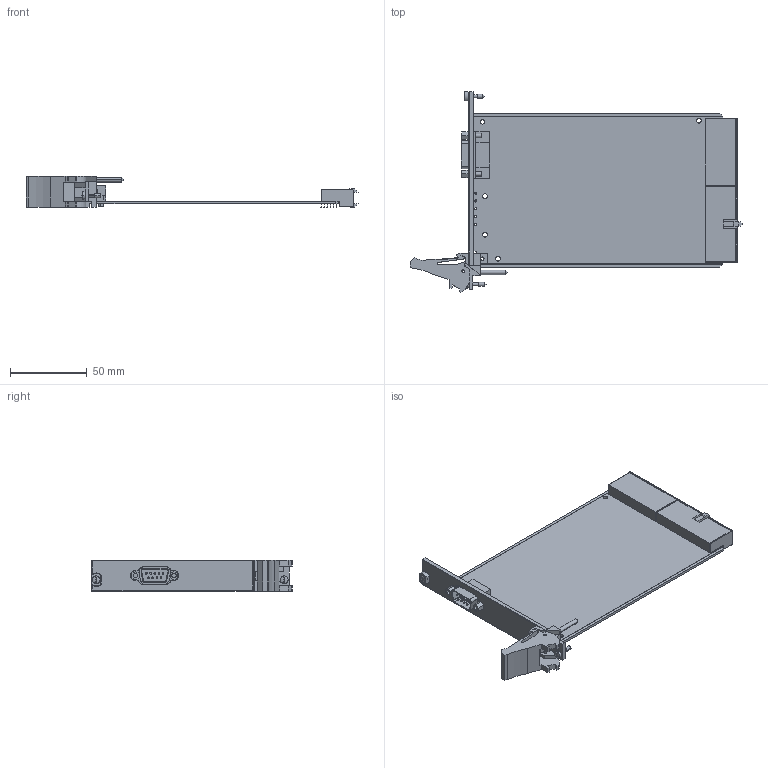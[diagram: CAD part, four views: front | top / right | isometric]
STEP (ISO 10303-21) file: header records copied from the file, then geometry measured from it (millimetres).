
FILE_DESCRIPTION((''),'2;1');
FILE_NAME('CU_PXI-8464','2009-05-18T',('jpfaff'),(''),'PRO/ENGINEER BY PARAMETRIC TECHNOLOGY CORPORATION, 2006080','PRO/ENGINEER BY PARAMETRIC TECHNOLOGY CORPORATION, 2006080','');
FILE_SCHEMA(('CONFIG_CONTROL_DESIGN'));
Length unit declared in the file: inch
Products named in the file (1): CU_PXI-8464
Bounding box: 216.08 x 130.62 x 20.19 mm (x, y, z)
Volume: 59828 mm3; surface area: 52007.2 mm2
Topology: 1 solids, 1 shells, 572 faces, 1461 edges, 961 vertices
Faces by surface type: plane 346, cylinder 216, cone 6, sphere 4
Entity records: 17427 total; most frequent: DIRECTION 3052, CARTESIAN_POINT 2994, ORIENTED_EDGE 2914, EDGE_CURVE 1457, AXIS2_PLACEMENT_3D 1024, VECTOR 1004, LINE 1004, VERTEX_POINT 961
